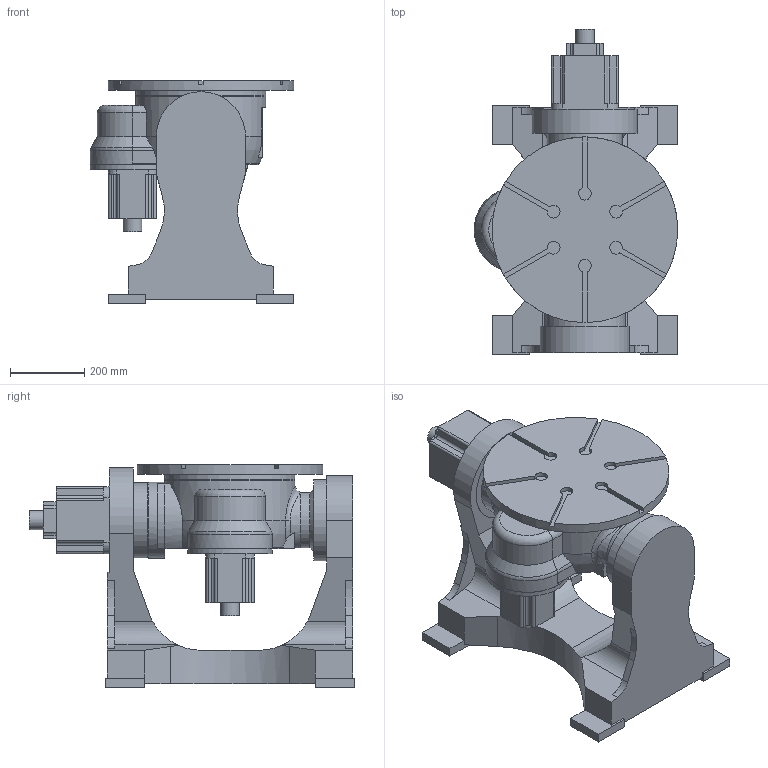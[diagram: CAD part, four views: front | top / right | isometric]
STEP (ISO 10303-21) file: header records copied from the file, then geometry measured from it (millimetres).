
FILE_DESCRIPTION(/* description */ (''),/* implementation_level */ '2;1');
FILE_NAME(/* name */ 'L:\メカ技\000 all\020 開発\23_\X2\30E630FC30B654113051\X0\CADデータ\01_外部軸\pfxxx\2PF.stp',/* time_stamp */ '2016-10-08T12:54:32+09:00',/* author */ ('1049157'),/* organization */ (''),/* preprocessor_version */ 'ST-DEVELOPER v15.2',/* originating_system */ 'Autodesk Inventor 2014',/* authorisation */ '');
FILE_SCHEMA (('AUTOMOTIVE_DESIGN { 1 0 10303 214 3 1 1 }'));
Length unit declared in the file: millimetre
Products named in the file (11): daihena2pfxxx_baseBdy1; daihena2pfxxx_baseBdy2; daihena2pfxxx_baseBdy3; daihena2pfxxx_base_out; daihena2pfxxx_link1Bdy1; daihena2pfxxx_link1Bdy2; daihena2pfxxx_link1Bdy3; daihena2pfxxx_link1Bdy4; daihena2pfxxx_link1_out; daihena2pfxxx_link2_out; 2PF
Bounding box: 548 x 876.5 x 600 mm (x, y, z)
Volume: 75462340.2 mm3; surface area: 2854755.1 mm2
Topology: 8 solids, 8 shells, 275 faces, 731 edges, 480 vertices
Faces by surface type: plane 177, cylinder 87, torus 4, cone 3, sphere 3, bspline 1
Full cylindrical faces by diameter (mm): 50.4 x2, 148 x1, 202 x1, 204 x1, 218 x1, 228 x1, 240 x2, 274 x2, 350 x2, 500 x1
Entity records: 9477 total; most frequent: CARTESIAN_POINT 2040, DIRECTION 1505, ORIENTED_EDGE 1426, EDGE_CURVE 713, AXIS2_PLACEMENT_3D 521, VERTEX_POINT 477, LINE 463, VECTOR 463
